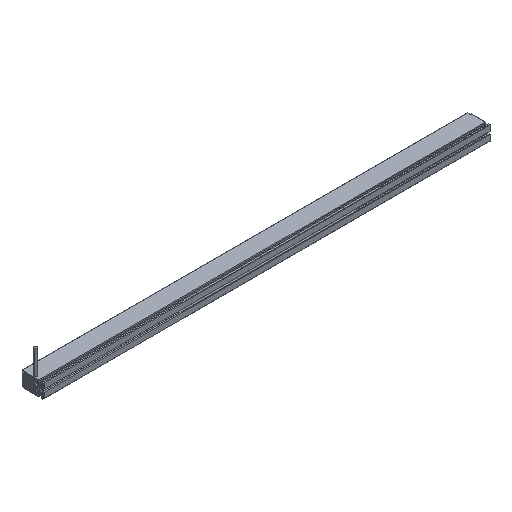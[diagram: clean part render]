
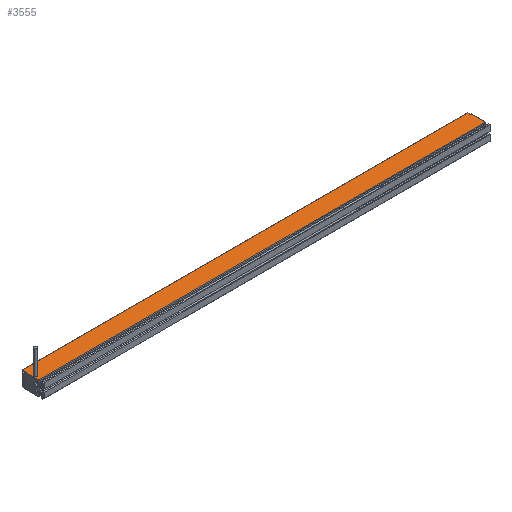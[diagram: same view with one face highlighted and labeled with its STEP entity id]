
A CAD part, isometric view. The second image highlights one B-rep face of the part: STEP entity #3555.
In plain terms, the highlighted planar face has unit normal (0, 0, 1) as drawn and (1, 0, 0) by its records, which use the part's own axes.
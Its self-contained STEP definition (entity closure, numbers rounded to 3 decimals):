
#332=DIRECTION('',(0.,1.,0.));
#333=VECTOR('',#332,17.499);
#334=CARTESIAN_POINT('',(9.,-4.3,-275.5));
#335=LINE('',#334,#333);
#488=CARTESIAN_POINT('',(9.,2.3,272.75));
#489=DIRECTION('',(1.,0.,0.));
#490=DIRECTION('',(0.,0.,-1.));
#491=AXIS2_PLACEMENT_3D('',#488,#489,#490);
#493=CARTESIAN_POINT('',(9.,2.3,272.75));
#494=DIRECTION('',(1.,0.,0.));
#495=DIRECTION('',(0.,0.,1.));
#496=AXIS2_PLACEMENT_3D('',#493,#494,#495);
#498=DIRECTION('',(0.,-1.,0.));
#499=VECTOR('',#498,3.301);
#500=CARTESIAN_POINT('',(9.,16.5,-274.5));
#501=LINE('',#500,#499);
#502=DIRECTION('',(0.,0.,-1.));
#503=VECTOR('',#502,1.);
#504=CARTESIAN_POINT('',(9.,13.199,-274.5));
#505=LINE('',#504,#503);
#506=DIRECTION('',(0.,0.,1.));
#507=VECTOR('',#506,550.);
#508=CARTESIAN_POINT('',(9.,-4.3,-275.5));
#509=LINE('',#508,#507);
#510=DIRECTION('',(0.,0.,-1.));
#511=VECTOR('',#510,549.);
#512=CARTESIAN_POINT('',(9.,16.5,274.5));
#513=LINE('',#512,#511);
#552=DIRECTION('',(0.,-1.,0.));
#553=VECTOR('',#552,3.203);
#554=CARTESIAN_POINT('',(9.,16.5,274.5));
#555=LINE('',#554,#553);
#556=DIRECTION('',(0.,-1.,0.));
#557=VECTOR('',#556,0.1);
#558=CARTESIAN_POINT('',(9.,-4.2,274.5));
#559=LINE('',#558,#557);
#1959=DIRECTION('',(0.,0.,1.));
#1960=VECTOR('',#1959,1.);
#1961=CARTESIAN_POINT('',(9.,13.297,274.5));
#1962=LINE('',#1961,#1960);
#1967=DIRECTION('',(0.,-1.,0.));
#1968=VECTOR('',#1967,17.497);
#1969=CARTESIAN_POINT('',(9.,13.297,275.5));
#1970=LINE('',#1969,#1968);
#1983=DIRECTION('',(0.,0.,-1.));
#1984=VECTOR('',#1983,1.);
#1985=CARTESIAN_POINT('',(9.,-4.2,275.5));
#1986=LINE('',#1985,#1984);
#2266=CARTESIAN_POINT('',(9.,13.297,275.5));
#2268=VERTEX_POINT('',#2266);
#2271=CARTESIAN_POINT('',(9.,-4.2,275.5));
#2272=VERTEX_POINT('',#2271);
#2499=CARTESIAN_POINT('',(9.,16.5,-274.5));
#2501=VERTEX_POINT('',#2499);
#2505=CARTESIAN_POINT('',(9.,-4.3,274.5));
#2507=VERTEX_POINT('',#2505);
#2517=CARTESIAN_POINT('',(9.,16.5,274.5));
#2518=VERTEX_POINT('',#2517);
#2519=CARTESIAN_POINT('',(9.,2.3,274.5));
#2521=VERTEX_POINT('',#2519);
#2525=CARTESIAN_POINT('',(9.,2.3,271.));
#2526=VERTEX_POINT('',#2525);
#2533=CARTESIAN_POINT('',(9.,13.297,274.5));
#2534=VERTEX_POINT('',#2533);
#2536=CARTESIAN_POINT('',(9.,-4.2,274.5));
#2538=VERTEX_POINT('',#2536);
#2645=CARTESIAN_POINT('',(9.,13.199,-275.5));
#2647=VERTEX_POINT('',#2645);
#2649=CARTESIAN_POINT('',(9.,-4.3,-275.5));
#2650=VERTEX_POINT('',#2649);
#2689=CARTESIAN_POINT('',(9.,13.199,-274.5));
#2691=VERTEX_POINT('',#2689);
#3526=CARTESIAN_POINT('',(9.,-4.2,274.5));
#3527=DIRECTION('',(1.,0.,0.));
#3528=DIRECTION('',(0.,1.,0.));
#3529=AXIS2_PLACEMENT_3D('',#3526,#3527,#3528);
#3530=PLANE('',#3529);
#3531=ORIENTED_EDGE('',*,*,#2754,.T.);
#3532=ORIENTED_EDGE('',*,*,#3099,.T.);
#3533=ORIENTED_EDGE('',*,*,#3083,.F.);
#3534=ORIENTED_EDGE('',*,*,#3516,.T.);
#3536=ORIENTED_EDGE('',*,*,#3535,.F.);
#3538=ORIENTED_EDGE('',*,*,#3537,.F.);
#3540=ORIENTED_EDGE('',*,*,#3539,.F.);
#3542=ORIENTED_EDGE('',*,*,#3541,.F.);
#3544=ORIENTED_EDGE('',*,*,#3543,.F.);
#3546=ORIENTED_EDGE('',*,*,#3545,.T.);
#3547=EDGE_LOOP('',(#3531,#3532,#3533,#3534,#3536,#3538,#3540,#3542,#3544,
#3546));
#3548=FACE_OUTER_BOUND('',#3547,.F.);
#3550=ORIENTED_EDGE('',*,*,#3549,.T.);
#3552=ORIENTED_EDGE('',*,*,#3551,.T.);
#3553=EDGE_LOOP('',(#3550,#3552));
#3554=FACE_BOUND('',#3553,.F.);
#492=CIRCLE('',#491,1.75);
#497=CIRCLE('',#496,1.75);
#2754=EDGE_CURVE('',#2501,#2691,#501,.T.);
#3083=EDGE_CURVE('',#2650,#2647,#335,.T.);
#3099=EDGE_CURVE('',#2691,#2647,#505,.T.);
#3516=EDGE_CURVE('',#2650,#2507,#509,.T.);
#3535=EDGE_CURVE('',#2538,#2507,#559,.T.);
#3537=EDGE_CURVE('',#2272,#2538,#1986,.T.);
#3539=EDGE_CURVE('',#2268,#2272,#1970,.T.);
#3541=EDGE_CURVE('',#2534,#2268,#1962,.T.);
#3543=EDGE_CURVE('',#2518,#2534,#555,.T.);
#3545=EDGE_CURVE('',#2518,#2501,#513,.T.);
#3549=EDGE_CURVE('',#2526,#2521,#492,.T.);
#3551=EDGE_CURVE('',#2521,#2526,#497,.T.);
#3555=ADVANCED_FACE('',(#3548,#3554),#3530,.T.);
